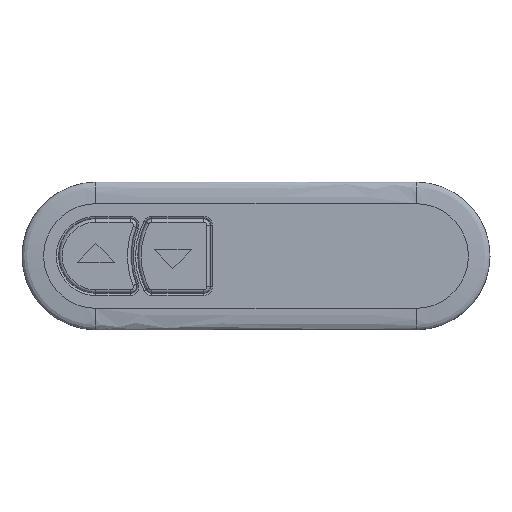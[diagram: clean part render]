
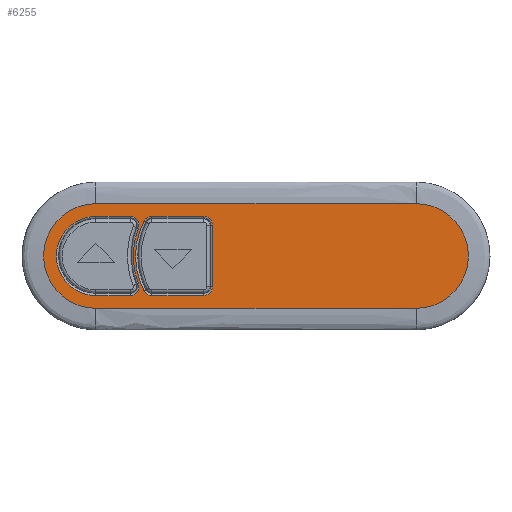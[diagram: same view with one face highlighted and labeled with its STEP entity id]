
A CAD part, top view. The second image highlights one B-rep face of the part: STEP entity #6255.
In plain terms, the highlighted planar face has unit normal (0, 0, 1).
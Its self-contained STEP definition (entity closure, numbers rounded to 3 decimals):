
#395=CARTESIAN_POINT('',(26.,0.,1.5));
#396=DIRECTION('',(0.,0.,1.));
#397=DIRECTION('',(0.,-1.,0.));
#398=AXIS2_PLACEMENT_3D('',#395,#396,#397);
#403=DIRECTION('',(1.,0.,0.));
#404=VECTOR('',#403,52.);
#405=CARTESIAN_POINT('',(-26.,-8.491,1.5));
#406=LINE('',#405,#404);
#410=CARTESIAN_POINT('',(-26.,0.,1.5));
#411=DIRECTION('',(0.,0.,1.));
#412=DIRECTION('',(0.,1.,0.));
#413=AXIS2_PLACEMENT_3D('',#410,#411,#412);
#418=DIRECTION('',(-1.,0.,0.));
#419=VECTOR('',#418,52.);
#420=CARTESIAN_POINT('',(26.,8.491,1.5));
#421=LINE('',#420,#419);
#425=CARTESIAN_POINT('',(-16.936,5.,1.5));
#426=DIRECTION('',(0.,0.,-1.));
#427=DIRECTION('',(-0.889,0.459,0.));
#428=AXIS2_PLACEMENT_3D('',#425,#426,#427);
#433=CARTESIAN_POINT('',(-7.25,0.,1.5));
#434=DIRECTION('',(0.,0.,-1.));
#435=DIRECTION('',(-0.889,-0.459,0.));
#436=AXIS2_PLACEMENT_3D('',#433,#434,#435);
#441=CARTESIAN_POINT('',(-16.936,-5.,1.5));
#442=DIRECTION('',(0.,0.,-1.));
#443=DIRECTION('',(0.,-1.,0.));
#444=AXIS2_PLACEMENT_3D('',#441,#442,#443);
#449=DIRECTION('',(-1.,0.,0.));
#450=VECTOR('',#449,8.436);
#451=CARTESIAN_POINT('',(-8.5,-6.417,1.5));
#452=LINE('',#451,#450);
#456=CARTESIAN_POINT('',(-8.5,-5.,1.5));
#457=DIRECTION('',(0.,0.,-1.));
#458=DIRECTION('',(1.,0.,0.));
#459=AXIS2_PLACEMENT_3D('',#456,#457,#458);
#464=DIRECTION('',(0.,-1.,0.));
#465=VECTOR('',#464,10.);
#466=CARTESIAN_POINT('',(-7.083,5.,1.5));
#467=LINE('',#466,#465);
#471=CARTESIAN_POINT('',(-8.5,5.,1.5));
#472=DIRECTION('',(0.,0.,-1.));
#473=DIRECTION('',(0.,1.,0.));
#474=AXIS2_PLACEMENT_3D('',#471,#472,#473);
#479=DIRECTION('',(1.,0.,0.));
#480=VECTOR('',#479,8.436);
#481=CARTESIAN_POINT('',(-16.936,6.417,1.5));
#482=LINE('',#481,#480);
#486=CARTESIAN_POINT('',(-20.434,-5.,1.5));
#487=DIRECTION('',(0.,0.,-1.));
#488=DIRECTION('',(0.935,0.355,0.));
#489=AXIS2_PLACEMENT_3D('',#486,#487,#488);
#494=CARTESIAN_POINT('',(-7.25,0.,1.5));
#495=DIRECTION('',(0.,0.,1.));
#496=DIRECTION('',(-0.935,0.355,0.));
#497=AXIS2_PLACEMENT_3D('',#494,#495,#496);
#502=CARTESIAN_POINT('',(-20.434,5.,1.5));
#503=DIRECTION('',(0.,0.,-1.));
#504=DIRECTION('',(0.,1.,0.));
#505=AXIS2_PLACEMENT_3D('',#502,#503,#504);
#510=DIRECTION('',(1.,0.,0.));
#511=VECTOR('',#510,5.566);
#512=CARTESIAN_POINT('',(-26.,6.417,1.5));
#513=LINE('',#512,#511);
#517=CARTESIAN_POINT('',(-26.,0.,1.5));
#518=DIRECTION('',(0.,0.,-1.));
#519=DIRECTION('',(0.,-1.,0.));
#520=AXIS2_PLACEMENT_3D('',#517,#518,#519);
#525=DIRECTION('',(-1.,0.,0.));
#526=VECTOR('',#525,5.566);
#527=CARTESIAN_POINT('',(-20.434,-6.417,1.5));
#528=LINE('',#527,#526);
#5325=CARTESIAN_POINT('',(26.,-8.491,1.5));
#5326=CARTESIAN_POINT('',(26.,8.491,1.5));
#5327=VERTEX_POINT('',#5325);
#5328=VERTEX_POINT('',#5326);
#5333=CARTESIAN_POINT('',(-26.,8.491,1.5));
#5334=VERTEX_POINT('',#5333);
#5337=CARTESIAN_POINT('',(-26.,-8.491,1.5));
#5338=VERTEX_POINT('',#5337);
#5389=CARTESIAN_POINT('',(-18.195,5.65,1.5));
#5390=CARTESIAN_POINT('',(-16.936,6.417,1.5));
#5391=VERTEX_POINT('',#5389);
#5392=VERTEX_POINT('',#5390);
#5397=CARTESIAN_POINT('',(-8.5,6.417,1.5));
#5398=VERTEX_POINT('',#5397);
#5401=CARTESIAN_POINT('',(-7.083,5.,1.5));
#5402=VERTEX_POINT('',#5401);
#5405=CARTESIAN_POINT('',(-7.083,-5.,1.5));
#5406=VERTEX_POINT('',#5405);
#5409=CARTESIAN_POINT('',(-8.5,-6.417,1.5));
#5410=VERTEX_POINT('',#5409);
#5413=CARTESIAN_POINT('',(-16.936,-6.417,1.5));
#5414=VERTEX_POINT('',#5413);
#5417=CARTESIAN_POINT('',(-18.195,-5.65,1.5));
#5418=VERTEX_POINT('',#5417);
#5421=CARTESIAN_POINT('',(-19.108,-4.497,1.5));
#5422=CARTESIAN_POINT('',(-20.434,-6.417,1.5));
#5423=VERTEX_POINT('',#5421);
#5424=VERTEX_POINT('',#5422);
#5429=CARTESIAN_POINT('',(-26.,-6.417,1.5));
#5430=VERTEX_POINT('',#5429);
#5433=CARTESIAN_POINT('',(-26.,6.417,1.5));
#5434=VERTEX_POINT('',#5433);
#5437=CARTESIAN_POINT('',(-20.434,6.417,1.5));
#5438=VERTEX_POINT('',#5437);
#5441=CARTESIAN_POINT('',(-19.108,4.497,1.5));
#5442=VERTEX_POINT('',#5441);
#6209=CARTESIAN_POINT('',(0.,0.,1.5));
#6210=DIRECTION('',(0.,0.,1.));
#6211=DIRECTION('',(1.,0.,0.));
#6212=AXIS2_PLACEMENT_3D('',#6209,#6210,#6211);
#6213=PLANE('',#6212);
#6215=ORIENTED_EDGE('',*,*,#6214,.F.);
#6217=ORIENTED_EDGE('',*,*,#6216,.F.);
#6219=ORIENTED_EDGE('',*,*,#6218,.F.);
#6221=ORIENTED_EDGE('',*,*,#6220,.F.);
#6222=EDGE_LOOP('',(#6215,#6217,#6219,#6221));
#6223=FACE_OUTER_BOUND('',#6222,.F.);
#6225=ORIENTED_EDGE('',*,*,#6224,.F.);
#6227=ORIENTED_EDGE('',*,*,#6226,.F.);
#6229=ORIENTED_EDGE('',*,*,#6228,.F.);
#6231=ORIENTED_EDGE('',*,*,#6230,.F.);
#6233=ORIENTED_EDGE('',*,*,#6232,.F.);
#6235=ORIENTED_EDGE('',*,*,#6234,.F.);
#6236=ORIENTED_EDGE('',*,*,#6192,.F.);
#6238=ORIENTED_EDGE('',*,*,#6237,.F.);
#6239=EDGE_LOOP('',(#6225,#6227,#6229,#6231,#6233,#6235,#6236,#6238));
#6240=FACE_BOUND('',#6239,.F.);
#6242=ORIENTED_EDGE('',*,*,#6241,.F.);
#6244=ORIENTED_EDGE('',*,*,#6243,.F.);
#6246=ORIENTED_EDGE('',*,*,#6245,.F.);
#6248=ORIENTED_EDGE('',*,*,#6247,.F.);
#6250=ORIENTED_EDGE('',*,*,#6249,.F.);
#6252=ORIENTED_EDGE('',*,*,#6251,.F.);
#6253=EDGE_LOOP('',(#6242,#6244,#6246,#6248,#6250,#6252));
#6254=FACE_BOUND('',#6253,.F.);
#399=CIRCLE('',#398,8.491);
#414=CIRCLE('',#413,8.491);
#429=CIRCLE('',#428,1.417);
#437=CIRCLE('',#436,12.317);
#445=CIRCLE('',#444,1.417);
#460=CIRCLE('',#459,1.417);
#475=CIRCLE('',#474,1.417);
#490=CIRCLE('',#489,1.417);
#498=CIRCLE('',#497,12.683);
#506=CIRCLE('',#505,1.417);
#521=CIRCLE('',#520,6.417);
#6192=EDGE_CURVE('',#5398,#5402,#475,.T.);
#6214=EDGE_CURVE('',#5327,#5328,#399,.T.);
#6216=EDGE_CURVE('',#5338,#5327,#406,.T.);
#6218=EDGE_CURVE('',#5334,#5338,#414,.T.);
#6220=EDGE_CURVE('',#5328,#5334,#421,.T.);
#6224=EDGE_CURVE('',#5391,#5392,#429,.T.);
#6226=EDGE_CURVE('',#5418,#5391,#437,.T.);
#6228=EDGE_CURVE('',#5414,#5418,#445,.T.);
#6230=EDGE_CURVE('',#5410,#5414,#452,.T.);
#6232=EDGE_CURVE('',#5406,#5410,#460,.T.);
#6234=EDGE_CURVE('',#5402,#5406,#467,.T.);
#6237=EDGE_CURVE('',#5392,#5398,#482,.T.);
#6241=EDGE_CURVE('',#5423,#5424,#490,.T.);
#6243=EDGE_CURVE('',#5442,#5423,#498,.T.);
#6245=EDGE_CURVE('',#5438,#5442,#506,.T.);
#6247=EDGE_CURVE('',#5434,#5438,#513,.T.);
#6249=EDGE_CURVE('',#5430,#5434,#521,.T.);
#6251=EDGE_CURVE('',#5424,#5430,#528,.T.);
#6255=ADVANCED_FACE('',(#6223,#6240,#6254),#6213,.T.);
